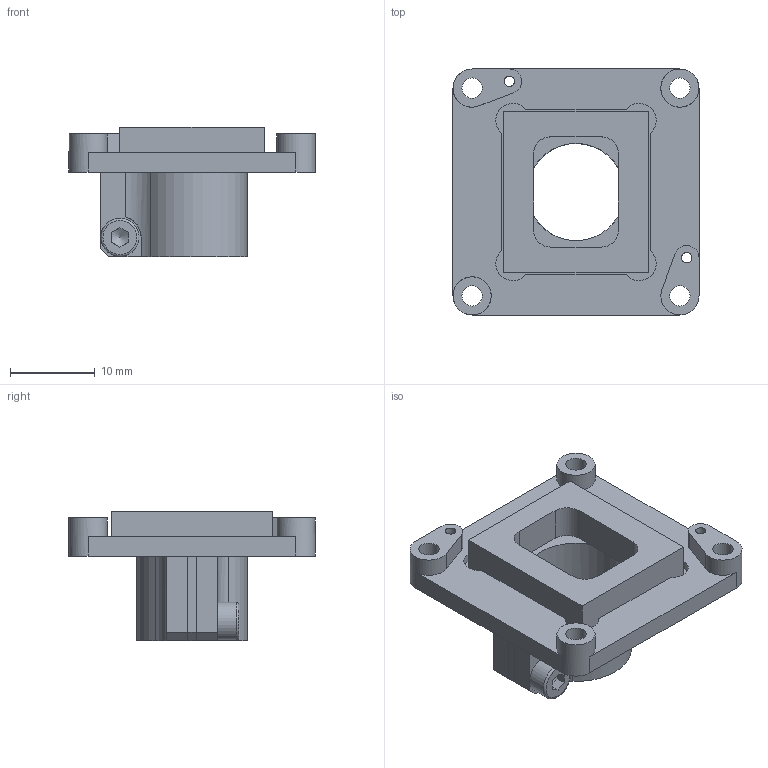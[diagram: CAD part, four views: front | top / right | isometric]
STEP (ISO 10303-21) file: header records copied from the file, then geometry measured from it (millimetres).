
FILE_DESCRIPTION(/* description */ (''),/* implementation_level */ '2;1');
FILE_NAME(/* name */ 'D:\HiDrive\1_Konstruktion\1_KUNDEN\TIS\228-17_Klemm-Minilinsenhalter USB 3.0 IMX 178\KundenStepModell (KSM)\KSM_228-23-1-00-10-a_KlemmMini 10 (Schraube_4mmKissen).stp',/* time_stamp */ '2024-02-19T20:13:56+01:00',/* author */ ('khw'),/* organization */ ('TIS, Germany'),/* preprocessor_version */ 'ST-DEVELOPER v18.1',/* originating_system */ 'Autodesk Inventor 2021',/* authorisation */ '520025 mm^3');
FILE_SCHEMA (('AUTOMOTIVE_DESIGN { 1 0 10303 214 3 1 1 }'));
Length unit declared in the file: millimetre
Products named in the file (5): 228-23-1-00-10_KlemmMini 10 (Schraube_4mmKissen); 228-23-0-10-01-a_Klemm-Minilinsenhalter; ISO 4762 - M2,5 x 6; 228-22-0-00-02-a_Dichtkissen 4mm; 228-17-0-10-02_Silikon-Dichtmasse
Assembly tree (4 placements, depth 2):
  228-23-1-00-10_KlemmMini 10 (Schraube_4mmKissen)
    228-23-0-10-01-a_Klemm-Minilinsenhalter
    ISO 4762 - M2,5 x 6
    228-22-0-00-02-a_Dichtkissen 4mm
    228-17-0-10-02_Silikon-Dichtmasse
Bounding box: 29 x 29 x 15.3 mm (x, y, z)
Volume: 2936.8 mm3; surface area: 4180.7 mm2
Topology: 4 solids, 4 shells, 87 faces, 234 edges, 156 vertices
Faces by surface type: plane 51, cylinder 32, torus 2, cone 2
Full cylindrical faces by diameter (mm): 1.221 x2, 2.013 x1, 2.4 x4, 2.5 x1, 2.7 x2, 4.5 x3, 11.459 x1
Entity records: 3009 total; most frequent: CARTESIAN_POINT 527, DIRECTION 494, ORIENTED_EDGE 466, EDGE_CURVE 233, AXIS2_PLACEMENT_3D 175, VERTEX_POINT 156, LINE 144, VECTOR 144
